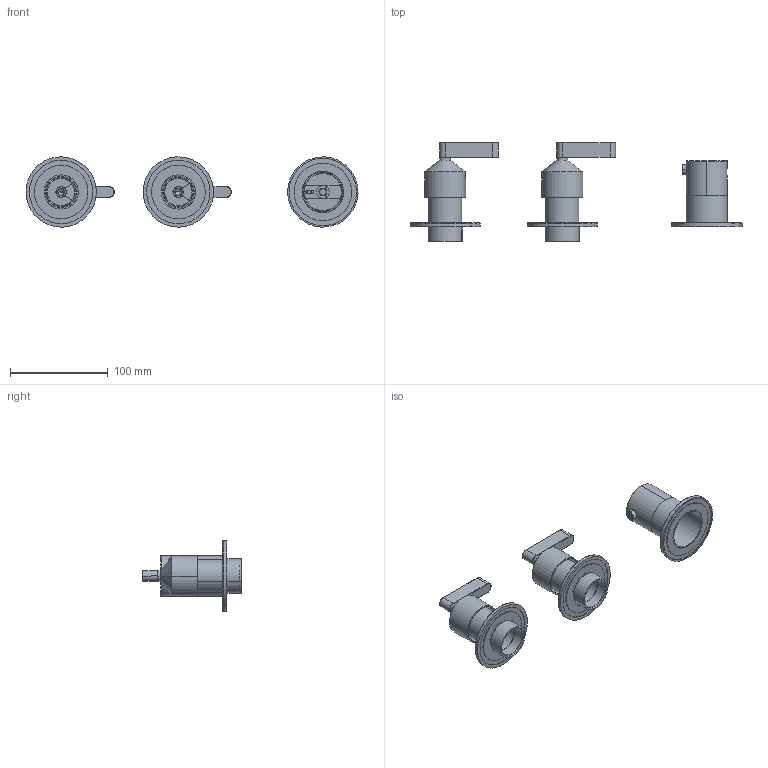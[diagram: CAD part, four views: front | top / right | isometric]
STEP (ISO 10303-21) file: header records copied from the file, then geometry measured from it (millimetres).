
FILE_DESCRIPTION (( 'STEP AP203' ), '1' );
FILE_NAME ('GKN41.STEP', '2022-01-20T10:05:56', ( '' ), ( '' ), 'SwSTEP 2.0', 'SolidWorks 2021', '' );
FILE_SCHEMA (( 'CONFIG_CONTROL_DESIGN' ));
Length unit declared in the file: millimetre
Products named in the file (11): C24.2033.00.0; C11.14.0009; C24.2073.00.0; C39.00.0003; C39.00.0010; C47.00.0023.01; C24.0976.00.0; C39.00.0056.01; GKN41; C24.2459.00.0; AS805_00
Assembly tree (14 placements, depth 3):
  GKN41
    C39.00.0010
    C24.2459.00.0  x2
    AS805_00  x2
      C24.2073.00.0
      C24.2033.00.0
    C47.00.0023.01  x2
    C11.14.0009
    C39.00.0056.01
    C24.0976.00.0  x2
    C39.00.0003
Bounding box: 339.96 x 101 x 71.97 mm (x, y, z)
Volume: 139877.6 mm3; surface area: 102128.4 mm2
Topology: 17 solids, 17 shells, 866 faces, 2236 edges, 1445 vertices
Faces by surface type: plane 456, cylinder 298, cone 74, torus 26, bspline 12
Entity records: 17876 total; most frequent: CARTESIAN_POINT 3650, DIRECTION 2802, ORIENTED_EDGE 2672, EDGE_CURVE 1336, AXIS2_PLACEMENT_3D 1023, VERTEX_POINT 868, LINE 756, VECTOR 756
